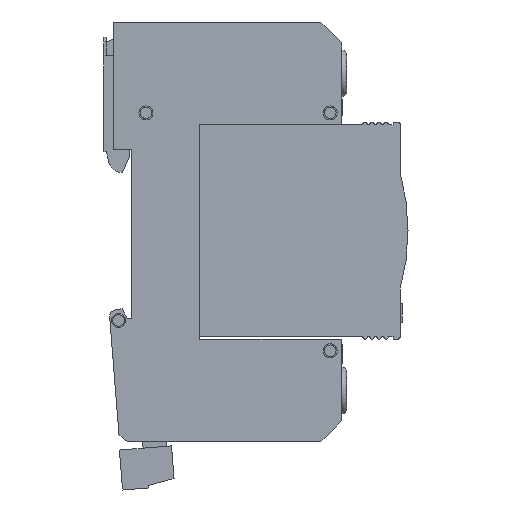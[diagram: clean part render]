
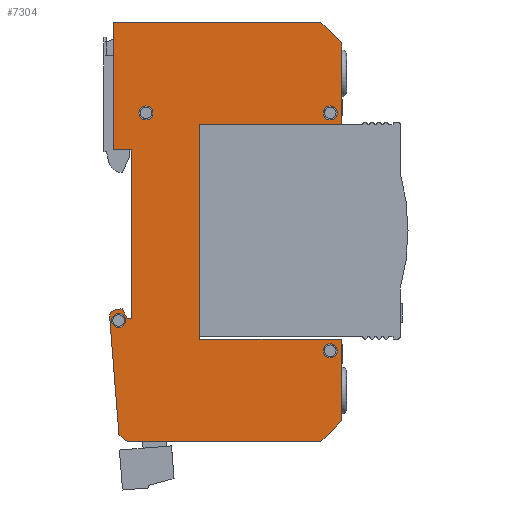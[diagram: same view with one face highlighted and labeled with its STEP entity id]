
A CAD part, front view. The second image highlights one B-rep face of the part: STEP entity #7304.
In plain terms, the highlighted planar face has unit normal (0, -1, 0).
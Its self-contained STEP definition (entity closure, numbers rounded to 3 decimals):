
#5323=CARTESIAN_POINT('',(-18.5,-18.,45.));
#5324=VERTEX_POINT('',#5323);
#5331=CARTESIAN_POINT('',(26.,-18.,45.));
#5332=VERTEX_POINT('',#5331);
#5333=CARTESIAN_POINT('',(-18.5,-18.,45.));
#5334=DIRECTION('',(1.,-0.,-0.));
#5335=VECTOR('',#5334,44.5);
#5336=LINE('',#5333,#5335);
#5337=EDGE_CURVE('',#5324,#5332,#5336,.T.);
#5431=CARTESIAN_POINT('',(26.,-18.,-45.));
#5432=VERTEX_POINT('',#5431);
#5439=CARTESIAN_POINT('',(-15.5,-18.,-45.));
#5440=VERTEX_POINT('',#5439);
#5441=CARTESIAN_POINT('',(26.,-18.,-45.));
#5442=DIRECTION('',(-1.,-0.,-0.));
#5443=VECTOR('',#5442,41.5);
#5444=LINE('',#5441,#5443);
#5445=EDGE_CURVE('',#5432,#5440,#5444,.T.);
#5639=CARTESIAN_POINT('',(-14.5,-18.,-18.5));
#5640=VERTEX_POINT('',#5639);
#5641=CARTESIAN_POINT('',(-14.5,-18.,17.75));
#5642=VERTEX_POINT('',#5641);
#5643=CARTESIAN_POINT('',(-14.5,-18.,-18.5));
#5644=DIRECTION('',(-0.,-0.,1.));
#5645=VECTOR('',#5644,36.25);
#5646=LINE('',#5643,#5645);
#5647=EDGE_CURVE('',#5640,#5642,#5646,.T.);
#5777=CARTESIAN_POINT('',(-19.273,-18.,-18.306));
#5778=VERTEX_POINT('',#5777);
#5785=CARTESIAN_POINT('',(-17.999,-18.,-16.704));
#5786=VERTEX_POINT('',#5785);
#5787=CARTESIAN_POINT('',(-17.777,-18.,-18.188));
#5788=DIRECTION('',(0.,1.,0.));
#5789=DIRECTION('',(0.,-0.,1.));
#5790=AXIS2_PLACEMENT_3D('',#5787,#5788,#5789);
#5791=CIRCLE('',#5790,1.5);
#5792=EDGE_CURVE('',#5778,#5786,#5791,.T.);
#5817=CARTESIAN_POINT('',(-16.632,-18.,-16.5));
#5818=VERTEX_POINT('',#5817);
#5819=CARTESIAN_POINT('',(-17.999,-18.,-16.704));
#5820=DIRECTION('',(0.989,-0.,0.148));
#5821=VECTOR('',#5820,1.383);
#5822=LINE('',#5819,#5821);
#5823=EDGE_CURVE('',#5786,#5818,#5822,.T.);
#5848=CARTESIAN_POINT('',(-15.5,-18.,-18.5));
#5849=VERTEX_POINT('',#5848);
#5850=CARTESIAN_POINT('',(-16.632,-18.,-16.5));
#5851=DIRECTION('',(0.492,0.,-0.87));
#5852=VECTOR('',#5851,2.298);
#5853=LINE('',#5850,#5852);
#5854=EDGE_CURVE('',#5818,#5849,#5853,.T.);
#5877=CARTESIAN_POINT('',(-15.5,-18.,-18.5));
#5878=DIRECTION('',(1.,-0.,-0.));
#5879=VECTOR('',#5878,1.);
#5880=LINE('',#5877,#5879);
#5881=EDGE_CURVE('',#5849,#5640,#5880,.T.);
#5892=CARTESIAN_POINT('',(-17.38,-18.,-17.5));
#5893=VERTEX_POINT('',#5892);
#5894=CARTESIAN_POINT('',(-18.88,-18.,-19.));
#5895=VERTEX_POINT('',#5894);
#5896=CARTESIAN_POINT('',(-17.38,-18.,-19.));
#5897=DIRECTION('',(0.,1.,0.));
#5898=DIRECTION('',(0.,-0.,1.));
#5899=AXIS2_PLACEMENT_3D('',#5896,#5897,#5898);
#5900=CIRCLE('',#5899,1.5);
#5901=EDGE_CURVE('',#5893,#5895,#5900,.T.);
#5903=CARTESIAN_POINT('',(-17.38,-18.,-19.));
#5904=DIRECTION('',(0.,1.,0.));
#5905=DIRECTION('',(0.,-0.,1.));
#5906=AXIS2_PLACEMENT_3D('',#5903,#5904,#5905);
#5907=CIRCLE('',#5906,1.5);
#5908=EDGE_CURVE('',#5895,#5893,#5907,.T.);
#6543=CARTESIAN_POINT('',(-17.29,-18.,-43.498));
#6544=VERTEX_POINT('',#6543);
#6545=CARTESIAN_POINT('',(-15.5,-18.,-45.));
#6546=DIRECTION('',(-0.766,-0.,0.643));
#6547=VECTOR('',#6546,2.337);
#6548=LINE('',#6545,#6547);
#6549=EDGE_CURVE('',#5440,#6544,#6548,.T.);
#6604=CARTESIAN_POINT('',(-17.29,-18.,-43.498));
#6605=DIRECTION('',(-0.078,-0.,0.997));
#6606=VECTOR('',#6605,25.27);
#6607=LINE('',#6604,#6606);
#6608=EDGE_CURVE('',#6544,#5778,#6607,.T.);
#6745=CARTESIAN_POINT('',(30.5,-18.,40.5));
#6746=VERTEX_POINT('',#6745);
#6747=CARTESIAN_POINT('',(26.,-18.,45.));
#6748=DIRECTION('',(0.707,0.,-0.707));
#6749=VECTOR('',#6748,6.364);
#6750=LINE('',#6747,#6749);
#6751=EDGE_CURVE('',#5332,#6746,#6750,.T.);
#6816=CARTESIAN_POINT('',(30.5,-18.,23.5));
#6817=VERTEX_POINT('',#6816);
#6818=CARTESIAN_POINT('',(30.5,-18.,40.5));
#6819=DIRECTION('',(-0.,0.,-1.));
#6820=VECTOR('',#6819,17.);
#6821=LINE('',#6818,#6820);
#6822=EDGE_CURVE('',#6746,#6817,#6821,.T.);
#6848=CARTESIAN_POINT('',(30.,-18.,23.));
#6849=VERTEX_POINT('',#6848);
#6850=CARTESIAN_POINT('',(30.,-18.,23.5));
#6851=DIRECTION('',(0.,1.,0.));
#6852=DIRECTION('',(0.,-0.,1.));
#6853=AXIS2_PLACEMENT_3D('',#6850,#6851,#6852);
#6854=CIRCLE('',#6853,0.5);
#6855=EDGE_CURVE('',#6817,#6849,#6854,.T.);
#6880=CARTESIAN_POINT('',(0.,-18.,23.));
#6881=VERTEX_POINT('',#6880);
#6882=CARTESIAN_POINT('',(30.,-18.,23.));
#6883=DIRECTION('',(-1.,-0.,-0.));
#6884=VECTOR('',#6883,30.);
#6885=LINE('',#6882,#6884);
#6886=EDGE_CURVE('',#6849,#6881,#6885,.T.);
#6911=CARTESIAN_POINT('',(0.,-18.,-23.));
#6912=VERTEX_POINT('',#6911);
#6913=CARTESIAN_POINT('',(0.,-18.,23.));
#6914=DIRECTION('',(-0.,0.,-1.));
#6915=VECTOR('',#6914,46.);
#6916=LINE('',#6913,#6915);
#6917=EDGE_CURVE('',#6881,#6912,#6916,.T.);
#6942=CARTESIAN_POINT('',(30.,-18.,-23.));
#6943=VERTEX_POINT('',#6942);
#6944=CARTESIAN_POINT('',(0.,-18.,-23.));
#6945=DIRECTION('',(1.,-0.,-0.));
#6946=VECTOR('',#6945,30.);
#6947=LINE('',#6944,#6946);
#6948=EDGE_CURVE('',#6912,#6943,#6947,.T.);
#6974=CARTESIAN_POINT('',(30.5,-18.,-23.5));
#6975=VERTEX_POINT('',#6974);
#6976=CARTESIAN_POINT('',(30.,-18.,-23.5));
#6977=DIRECTION('',(0.,1.,0.));
#6978=DIRECTION('',(0.,-0.,1.));
#6979=AXIS2_PLACEMENT_3D('',#6976,#6977,#6978);
#6980=CIRCLE('',#6979,0.5);
#6981=EDGE_CURVE('',#6943,#6975,#6980,.T.);
#7026=CARTESIAN_POINT('',(30.5,-18.,-40.5));
#7027=VERTEX_POINT('',#7026);
#7028=CARTESIAN_POINT('',(30.5,-18.,-23.5));
#7029=DIRECTION('',(-0.,0.,-1.));
#7030=VECTOR('',#7029,17.);
#7031=LINE('',#7028,#7030);
#7032=EDGE_CURVE('',#6975,#7027,#7031,.T.);
#7055=CARTESIAN_POINT('',(30.5,-18.,-40.5));
#7056=DIRECTION('',(-0.707,0.,-0.707));
#7057=VECTOR('',#7056,6.364);
#7058=LINE('',#7055,#7057);
#7059=EDGE_CURVE('',#7027,#5432,#7058,.T.);
#7116=CARTESIAN_POINT('',(28.,-18.,-24.));
#7117=VERTEX_POINT('',#7116);
#7118=CARTESIAN_POINT('',(26.5,-18.,-25.5));
#7119=VERTEX_POINT('',#7118);
#7120=CARTESIAN_POINT('',(28.,-18.,-25.5));
#7121=DIRECTION('',(0.,1.,0.));
#7122=DIRECTION('',(0.,-0.,1.));
#7123=AXIS2_PLACEMENT_3D('',#7120,#7121,#7122);
#7124=CIRCLE('',#7123,1.5);
#7125=EDGE_CURVE('',#7117,#7119,#7124,.T.);
#7127=CARTESIAN_POINT('',(28.,-18.,-25.5));
#7128=DIRECTION('',(0.,1.,0.));
#7129=DIRECTION('',(0.,-0.,1.));
#7130=AXIS2_PLACEMENT_3D('',#7127,#7128,#7129);
#7131=CIRCLE('',#7130,1.5);
#7132=EDGE_CURVE('',#7119,#7117,#7131,.T.);
#7162=CARTESIAN_POINT('',(-11.5,-18.,27.));
#7163=VERTEX_POINT('',#7162);
#7164=CARTESIAN_POINT('',(-13.,-18.,25.5));
#7165=VERTEX_POINT('',#7164);
#7166=CARTESIAN_POINT('',(-11.5,-18.,25.5));
#7167=DIRECTION('',(0.,1.,0.));
#7168=DIRECTION('',(0.,-0.,1.));
#7169=AXIS2_PLACEMENT_3D('',#7166,#7167,#7168);
#7170=CIRCLE('',#7169,1.5);
#7171=EDGE_CURVE('',#7163,#7165,#7170,.T.);
#7173=CARTESIAN_POINT('',(-11.5,-18.,25.5));
#7174=DIRECTION('',(0.,1.,0.));
#7175=DIRECTION('',(0.,-0.,1.));
#7176=AXIS2_PLACEMENT_3D('',#7173,#7174,#7175);
#7177=CIRCLE('',#7176,1.5);
#7178=EDGE_CURVE('',#7165,#7163,#7177,.T.);
#7208=CARTESIAN_POINT('',(28.,-18.,27.));
#7209=VERTEX_POINT('',#7208);
#7210=CARTESIAN_POINT('',(26.5,-18.,25.5));
#7211=VERTEX_POINT('',#7210);
#7212=CARTESIAN_POINT('',(28.,-18.,25.5));
#7213=DIRECTION('',(0.,1.,0.));
#7214=DIRECTION('',(0.,-0.,1.));
#7215=AXIS2_PLACEMENT_3D('',#7212,#7213,#7214);
#7216=CIRCLE('',#7215,1.5);
#7217=EDGE_CURVE('',#7209,#7211,#7216,.T.);
#7219=CARTESIAN_POINT('',(28.,-18.,25.5));
#7220=DIRECTION('',(0.,1.,0.));
#7221=DIRECTION('',(0.,-0.,1.));
#7222=AXIS2_PLACEMENT_3D('',#7219,#7220,#7221);
#7223=CIRCLE('',#7222,1.5);
#7224=EDGE_CURVE('',#7211,#7209,#7223,.T.);
#7249=CARTESIAN_POINT('',(0.,-18.,-0.));
#7250=DIRECTION('',(0.,1.,0.));
#7251=DIRECTION('',(0.,0.,-1.));
#7252=AXIS2_PLACEMENT_3D('',#7249,#7250,#7251);
#7253=PLANE('',#7252);
#7254=ORIENTED_EDGE('',*,*,#7224,.T.);
#7255=ORIENTED_EDGE('',*,*,#7217,.T.);
#7256=EDGE_LOOP('',(#7254,#7255));
#7257=FACE_BOUND('',#7256,.T.);
#7258=ORIENTED_EDGE('',*,*,#7178,.T.);
#7259=ORIENTED_EDGE('',*,*,#7171,.T.);
#7260=EDGE_LOOP('',(#7258,#7259));
#7261=FACE_BOUND('',#7260,.T.);
#7262=ORIENTED_EDGE('',*,*,#7132,.T.);
#7263=ORIENTED_EDGE('',*,*,#7125,.T.);
#7264=EDGE_LOOP('',(#7262,#7263));
#7265=FACE_BOUND('',#7264,.T.);
#7266=ORIENTED_EDGE('',*,*,#5908,.T.);
#7267=ORIENTED_EDGE('',*,*,#5901,.T.);
#7268=EDGE_LOOP('',(#7266,#7267));
#7269=FACE_BOUND('',#7268,.T.);
#7270=ORIENTED_EDGE('',*,*,#6549,.F.);
#7271=ORIENTED_EDGE('',*,*,#5445,.F.);
#7272=ORIENTED_EDGE('',*,*,#7059,.F.);
#7273=ORIENTED_EDGE('',*,*,#7032,.F.);
#7274=ORIENTED_EDGE('',*,*,#6981,.F.);
#7275=ORIENTED_EDGE('',*,*,#6948,.F.);
#7276=ORIENTED_EDGE('',*,*,#6917,.F.);
#7277=ORIENTED_EDGE('',*,*,#6886,.F.);
#7278=ORIENTED_EDGE('',*,*,#6855,.F.);
#7279=ORIENTED_EDGE('',*,*,#6822,.F.);
#7280=ORIENTED_EDGE('',*,*,#6751,.F.);
#7281=ORIENTED_EDGE('',*,*,#5337,.F.);
#7282=CARTESIAN_POINT('',(-18.5,-18.,17.75));
#7283=VERTEX_POINT('',#7282);
#7284=CARTESIAN_POINT('',(-18.5,-18.,45.));
#7285=DIRECTION('',(0.,0.,-1.));
#7286=VECTOR('',#7285,27.25);
#7287=LINE('',#7284,#7286);
#7288=EDGE_CURVE('',#5324,#7283,#7287,.T.);
#7289=ORIENTED_EDGE('',*,*,#7288,.T.);
#7290=CARTESIAN_POINT('',(-18.5,-18.,17.75));
#7291=DIRECTION('',(1.,-0.,-0.));
#7292=VECTOR('',#7291,4.);
#7293=LINE('',#7290,#7292);
#7294=EDGE_CURVE('',#7283,#5642,#7293,.T.);
#7295=ORIENTED_EDGE('',*,*,#7294,.T.);
#7296=ORIENTED_EDGE('',*,*,#5647,.F.);
#7297=ORIENTED_EDGE('',*,*,#5881,.F.);
#7298=ORIENTED_EDGE('',*,*,#5854,.F.);
#7299=ORIENTED_EDGE('',*,*,#5823,.F.);
#7300=ORIENTED_EDGE('',*,*,#5792,.F.);
#7301=ORIENTED_EDGE('',*,*,#6608,.F.);
#7302=EDGE_LOOP('',(#7270,#7271,#7272,#7273,#7274,#7275,#7276,#7277,#7278,#7279,#7280,#7281,#7289,#7295,#7296,#7297,#7298,#7299,#7300,#7301));
#7303=FACE_BOUND('',#7302,.T.);
#7304=ADVANCED_FACE('',(#7257,#7261,#7265,#7269,#7303),#7253,.F.);
